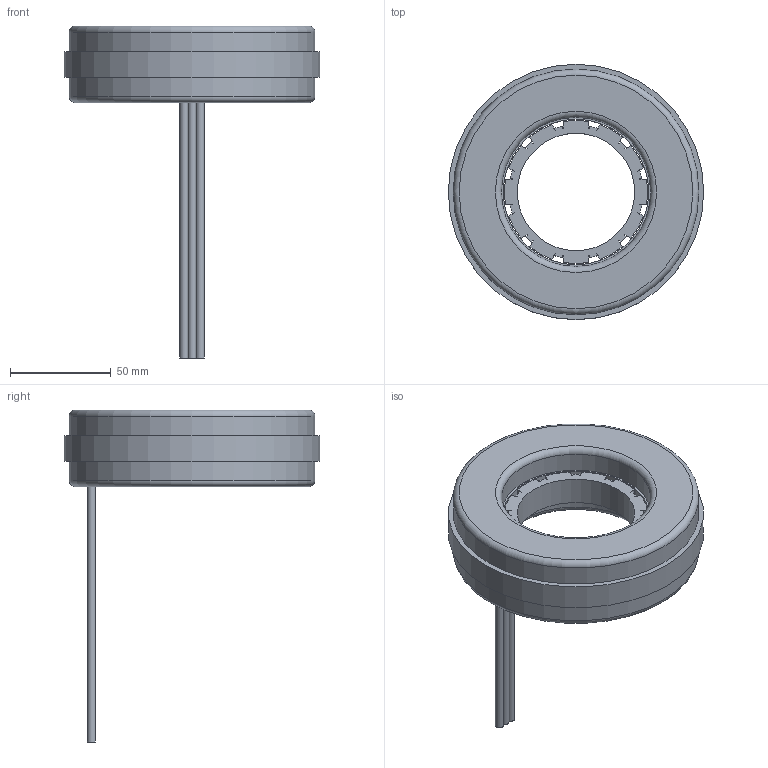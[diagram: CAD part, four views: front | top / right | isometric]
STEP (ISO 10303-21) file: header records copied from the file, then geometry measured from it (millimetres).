
FILE_DESCRIPTION((''),'2;1');
FILE_NAME('Z:\Product Library\Motor Library\STEPS\K127050-xx1.stp','2010-12-09T11:25:31',('dba4318'),(''),'Autodesk Inventor 2010','Autodesk Inventor 2010','');
FILE_SCHEMA(('CONFIG_CONTROL_DESIGN'));
Length unit declared in the file: inch
Products named in the file (1): Part10
Bounding box: 127 x 127 x 165.1 mm (x, y, z)
Volume: 314661.4 mm3; surface area: 53170.8 mm2
Topology: 2 solids, 2 shells, 122 faces, 329 edges, 214 vertices
Faces by surface type: plane 83, cylinder 35, torus 4
Full cylindrical faces by diameter (mm): 4 x2, 58.395 x1, 72.365 x1, 74.17 x2, 122.17 x2, 127 x1
Entity records: 3915 total; most frequent: CARTESIAN_POINT 655, DIRECTION 638, ORIENTED_EDGE 636, EDGE_CURVE 318, VECTOR 244, LINE 244, VERTEX_POINT 214, AXIS2_PLACEMENT_3D 197
